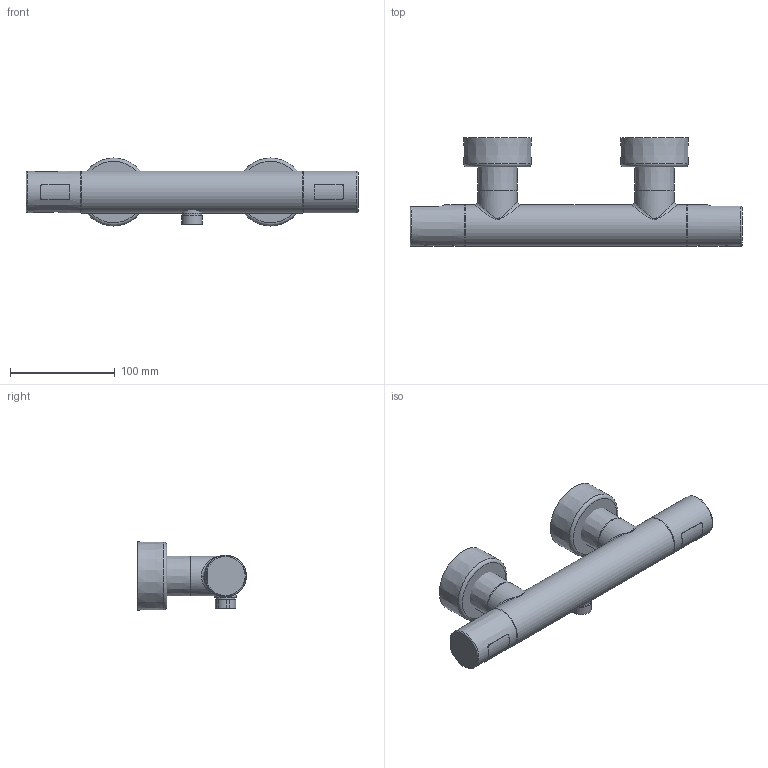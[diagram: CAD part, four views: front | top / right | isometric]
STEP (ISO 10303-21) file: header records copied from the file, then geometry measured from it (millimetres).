
FILE_DESCRIPTION(/* description */ (''),/* implementation_level */ '2;1');
FILE_NAME(/* name */ 'TVS000017000 komplette Beschriftung entfernen.step',/* time_stamp */ '2023-02-23T11:01:51+01:00',/* author */ (''),/* organization */ (''),/* preprocessor_version */ 'ST-DEVELOPER v19.2',/* originating_system */ 'Autodesk Translation Framework v11.17.0.187',/* authorisation */ '');
FILE_SCHEMA (('AUTOMOTIVE_DESIGN { 1 0 10303 214 3 1 1 }'));
Length unit declared in the file: millimetre
Products named in the file (6): (Nicht gespeichert); YOUBASHOU; ZUOBASHOU; F091001-004; Komponente11; FATI
Assembly tree (6 placements, depth 3):
  (Nicht gespeichert)
    YOUBASHOU
    ZUOBASHOU
    F091001-004  x2
    Komponente11
      FATI
Bounding box: 317.2 x 104 x 65 mm (x, y, z)
Volume: 634725.2 mm3; surface area: 103769.9 mm2
Topology: 11 solids, 13 shells, 213 faces, 471 edges, 305 vertices
Faces by surface type: plane 122, cylinder 43, bspline 17, cone 15, torus 12, sphere 4
Full cylindrical faces by diameter (mm): 16.2 x1, 18 x1, 18.5 x1, 19 x1, 20.8 x1, 34 x2, 36 x2, 37 x2, 38 x2, 40 x6, 42 x2
Entity records: 9182 total; most frequent: CARTESIAN_POINT 5386, DIRECTION 779, ORIENTED_EDGE 716, EDGE_CURVE 359, AXIS2_PLACEMENT_3D 304, VERTEX_POINT 231, EDGE_LOOP 190, LINE 171
